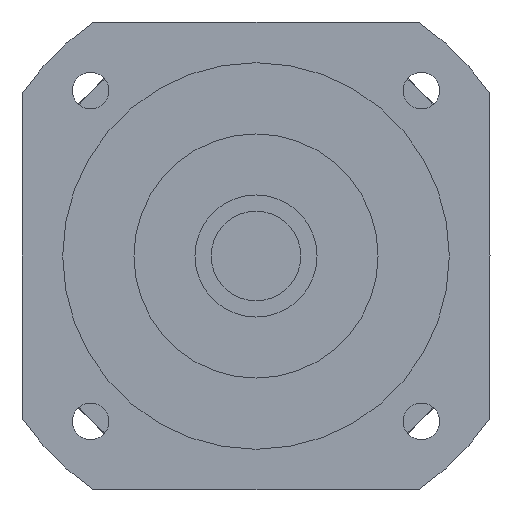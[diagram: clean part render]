
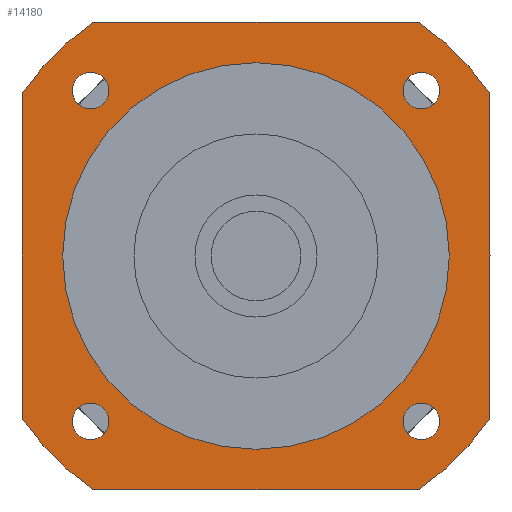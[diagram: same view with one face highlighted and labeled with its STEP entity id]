
A CAD part, left-side view. The second image highlights one B-rep face of the part: STEP entity #14180.
In plain terms, the highlighted planar face has unit normal (-1, 0, 0) as drawn and (0, 0, -1) by its records, which use the part's own axes.
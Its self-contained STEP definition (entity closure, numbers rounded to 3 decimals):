
#8670=CARTESIAN_POINT('',(-39.922,57.5,-66.4));
#8680=VERTEX_POINT('',#8670);
#8860=CARTESIAN_POINT('',(-57.5,39.922,-66.4));
#8870=VERTEX_POINT('',#8860);
#8900=CARTESIAN_POINT('',(0.,0.,
-66.4));
#8910=DIRECTION('',(0.,0.,-1.));
#8920=DIRECTION('',(1.,0.,0.));
#8930=AXIS2_PLACEMENT_3D('',#8900,#8910,#8920);
#8940=CIRCLE('',#8930,70.);
#8950=EDGE_CURVE('',#8870,#8680,#8940,.T.);
#11660=CARTESIAN_POINT('',(-57.5,57.5,-66.4));
#11670=DIRECTION('',(1.,0.,0.));
#11680=VECTOR('',#11670,1000.);
#11690=LINE('',#11660,#11680);
#11700=CARTESIAN_POINT('',(39.922,57.5,-66.4));
#11710=VERTEX_POINT('',#11700);
#11720=EDGE_CURVE('',#8680,#11710,#11690,.T.);
#11900=CARTESIAN_POINT('',(0.,0.,
-66.4));
#11910=DIRECTION('',(0.,0.,-1.));
#11920=DIRECTION('',(1.,0.,0.));
#11930=AXIS2_PLACEMENT_3D('',#11900,#11910,#11920);
#11940=CIRCLE('',#11930,70.);
#11950=CARTESIAN_POINT('',(57.5,39.922,-66.4));
#11960=VERTEX_POINT('',#11950);
#11970=EDGE_CURVE('',#11710,#11960,#11940,.T.);
#12150=CARTESIAN_POINT('',(57.5,57.5,-66.4));
#12160=DIRECTION('',(0.,-1.,0.));
#12170=VECTOR('',#12160,1000.);
#12180=LINE('',#12150,#12170);
#12190=CARTESIAN_POINT('',(57.5,-39.922,-66.4));
#12200=VERTEX_POINT('',#12190);
#12210=EDGE_CURVE('',#11960,#12200,#12180,.T.);
#12390=CARTESIAN_POINT('',(0.,0.,
-66.4));
#12400=DIRECTION('',(0.,0.,-1.));
#12410=DIRECTION('',(1.,0.,0.));
#12420=AXIS2_PLACEMENT_3D('',#12390,#12400,#12410);
#12430=CIRCLE('',#12420,70.);
#12440=CARTESIAN_POINT('',(39.922,-57.5,-66.4));
#12450=VERTEX_POINT('',#12440);
#12460=EDGE_CURVE('',#12200,#12450,#12430,.T.);
#12640=CARTESIAN_POINT('',(57.5,-57.5,-66.4));
#12650=DIRECTION('',(-1.,0.,0.));
#12660=VECTOR('',#12650,1000.);
#12670=LINE('',#12640,#12660);
#12680=CARTESIAN_POINT('',(-39.922,-57.5,-66.4));
#12690=VERTEX_POINT('',#12680);
#12700=EDGE_CURVE('',#12450,#12690,#12670,.T.);
#12880=CARTESIAN_POINT('',(0.,0.,
-66.4));
#12890=DIRECTION('',(0.,0.,-1.));
#12900=DIRECTION('',(1.,0.,0.));
#12910=AXIS2_PLACEMENT_3D('',#12880,#12890,#12900);
#12920=CIRCLE('',#12910,70.);
#12930=CARTESIAN_POINT('',(-57.5,-39.922,-66.4));
#12940=VERTEX_POINT('',#12930);
#12950=EDGE_CURVE('',#12690,#12940,#12920,.T.);
#13130=CARTESIAN_POINT('',(-57.5,-57.5,-66.4));
#13140=DIRECTION('',(0.,1.,0.));
#13150=VECTOR('',#13140,1000.);
#13160=LINE('',#13130,#13150);
#13170=EDGE_CURVE('',#12940,#8870,#13160,.T.);
#13240=CARTESIAN_POINT('',(57.5,57.5,-66.4));
#13250=DIRECTION('',(0.,0.,-1.));
#13260=DIRECTION('',(1.,0.,0.));
#13270=AXIS2_PLACEMENT_3D('',#13240,#13250,#13260);
#13280=PLANE('',#13270);
#13290=CARTESIAN_POINT('',(-40.659,-40.659,-66.4));
#13300=DIRECTION('',(0.,0.,-1.));
#13310=DIRECTION('',(0.,-1.,0.));
#13320=AXIS2_PLACEMENT_3D('',#13290,#13300,#13310);
#13330=CIRCLE('',#13320,4.5);
#13340=CARTESIAN_POINT('',(-40.659,-45.159,-66.4));
#13350=VERTEX_POINT('',#13340);
#13360=CARTESIAN_POINT('',(-40.659,-36.159,-66.4));
#13370=VERTEX_POINT('',#13360);
#13380=EDGE_CURVE('',#13350,#13370,#13330,.T.);
#13390=ORIENTED_EDGE('',*,*,#13380,.F.);
#13400=EDGE_CURVE('',#13370,#13350,#13330,.T.);
#13410=ORIENTED_EDGE('',*,*,#13400,.F.);
#13420=EDGE_LOOP('',(#13410,#13390));
#13430=FACE_BOUND('',#13420,.T.);
#13440=CARTESIAN_POINT('',(-40.659,40.659,-66.4));
#13450=DIRECTION('',(0.,0.,-1.));
#13460=DIRECTION('',(-1.,0.,0.));
#13470=AXIS2_PLACEMENT_3D('',#13440,#13450,#13460);
#13480=CIRCLE('',#13470,4.5);
#13490=CARTESIAN_POINT('',(-45.159,40.659,-66.4));
#13500=VERTEX_POINT('',#13490);
#13510=CARTESIAN_POINT('',(-36.159,40.659,-66.4));
#13520=VERTEX_POINT('',#13510);
#13530=EDGE_CURVE('',#13500,#13520,#13480,.T.);
#13540=ORIENTED_EDGE('',*,*,#13530,.F.);
#13550=EDGE_CURVE('',#13520,#13500,#13480,.T.);
#13560=ORIENTED_EDGE('',*,*,#13550,.F.);
#13570=EDGE_LOOP('',(#13560,#13540));
#13580=FACE_BOUND('',#13570,.T.);
#13590=CARTESIAN_POINT('',(40.659,40.659,-66.4));
#13600=DIRECTION('',(0.,0.,-1.));
#13610=DIRECTION('',(0.,1.,0.));
#13620=AXIS2_PLACEMENT_3D('',#13590,#13600,#13610);
#13630=CIRCLE('',#13620,4.5);
#13640=CARTESIAN_POINT('',(40.659,45.159,-66.4));
#13650=VERTEX_POINT('',#13640);
#13660=CARTESIAN_POINT('',(40.659,36.159,-66.4));
#13670=VERTEX_POINT('',#13660);
#13680=EDGE_CURVE('',#13650,#13670,#13630,.T.);
#13690=ORIENTED_EDGE('',*,*,#13680,.F.);
#13700=EDGE_CURVE('',#13670,#13650,#13630,.T.);
#13710=ORIENTED_EDGE('',*,*,#13700,.F.);
#13720=EDGE_LOOP('',(#13710,#13690));
#13730=FACE_BOUND('',#13720,.T.);
#13740=CARTESIAN_POINT('',(0.,0.,
-66.4));
#13750=DIRECTION('',(0.,0.,1.));
#13760=DIRECTION('',(0.,1.,0.));
#13770=AXIS2_PLACEMENT_3D('',#13740,#13750,#13760);
#13780=CIRCLE('',#13770,47.5);
#13790=CARTESIAN_POINT('',(-47.5,0.,-66.4));
#13800=VERTEX_POINT('',#13790);
#13810=CARTESIAN_POINT('',(47.5,0.,-66.4));
#13820=VERTEX_POINT('',#13810);
#13830=EDGE_CURVE('',#13800,#13820,#13780,.T.);
#13840=ORIENTED_EDGE('',*,*,#13830,.T.);
#13850=CARTESIAN_POINT('',(0.,47.5,-66.4));
#13860=VERTEX_POINT('',#13850);
#13870=EDGE_CURVE('',#13860,#13800,#13780,.T.);
#13880=ORIENTED_EDGE('',*,*,#13870,.T.);
#13890=EDGE_CURVE('',#13820,#13860,#13780,.T.);
#13900=ORIENTED_EDGE('',*,*,#13890,.T.);
#13910=EDGE_LOOP('',(#13900,#13880,#13840));
#13920=FACE_BOUND('',#13910,.T.);
#13930=ORIENTED_EDGE('',*,*,#11720,.T.);
#13940=ORIENTED_EDGE('',*,*,#8950,.T.);
#13950=ORIENTED_EDGE('',*,*,#13170,.T.);
#13960=ORIENTED_EDGE('',*,*,#12950,.T.);
#13970=ORIENTED_EDGE('',*,*,#12700,.T.);
#13980=ORIENTED_EDGE('',*,*,#12460,.T.);
#13990=ORIENTED_EDGE('',*,*,#12210,.T.);
#14000=ORIENTED_EDGE('',*,*,#11970,.T.);
#14010=EDGE_LOOP('',(#14000,#13990,#13980,#13970,#13960,#13950,#13940,
#13930));
#14020=FACE_OUTER_BOUND('',#14010,.T.);
#14030=CARTESIAN_POINT('',(40.659,-40.659,-66.4));
#14040=DIRECTION('',(0.,0.,-1.));
#14050=DIRECTION('',(1.,0.,0.));
#14060=AXIS2_PLACEMENT_3D('',#14030,#14040,#14050);
#14070=CIRCLE('',#14060,4.5);
#14080=CARTESIAN_POINT('',(45.159,-40.659,-66.4));
#14090=VERTEX_POINT('',#14080);
#14100=CARTESIAN_POINT('',(36.159,-40.659,-66.4));
#14110=VERTEX_POINT('',#14100);
#14120=EDGE_CURVE('',#14090,#14110,#14070,.T.);
#14130=ORIENTED_EDGE('',*,*,#14120,.F.);
#14140=EDGE_CURVE('',#14110,#14090,#14070,.T.);
#14150=ORIENTED_EDGE('',*,*,#14140,.F.);
#14160=EDGE_LOOP('',(#14150,#14130));
#14170=FACE_BOUND('',#14160,.T.);
#14180=ADVANCED_FACE('',(#13430,#13580,#13730,#13920,#14020,#14170),
#13280,.T.);
